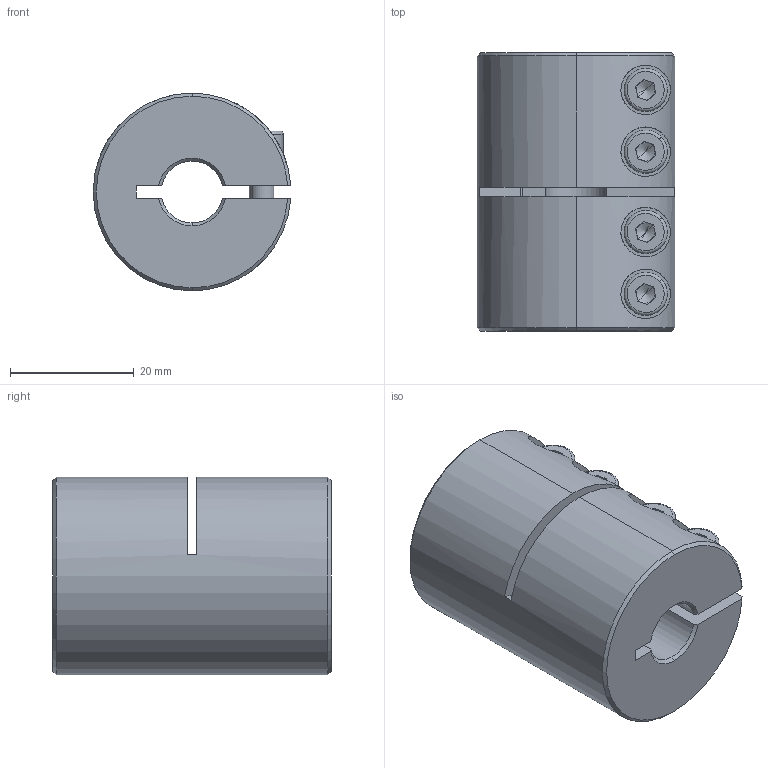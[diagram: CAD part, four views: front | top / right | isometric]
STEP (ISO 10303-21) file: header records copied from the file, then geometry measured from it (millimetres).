
FILE_DESCRIPTION (( 'STEP AP214' ), '1' );
FILE_NAME ('LL-B-D32L45-10-10½¨Ä£.STEP', '2022-07-21T07:07:27', ( '' ), ( '' ), 'SwSTEP 2.0', 'SolidWorks 2022', '' );
FILE_SCHEMA (( 'AUTOMOTIVE_DESIGN' ));
Length unit declared in the file: millimetre
Products named in the file (1): LL-B-D32L45-10-10膘耀
Bounding box: 31.97 x 45 x 32 mm (x, y, z)
Volume: 30067.3 mm3; surface area: 10748.6 mm2
Topology: 1 solids, 1 shells, 188 faces, 477 edges, 299 vertices
Faces by surface type: plane 86, cylinder 74, cone 20, torus 8
Entity records: 6186 total; most frequent: CARTESIAN_POINT 1553, DIRECTION 1006, ORIENTED_EDGE 938, EDGE_CURVE 469, AXIS2_PLACEMENT_3D 392, VERTEX_POINT 299, VECTOR 222, LINE 222
